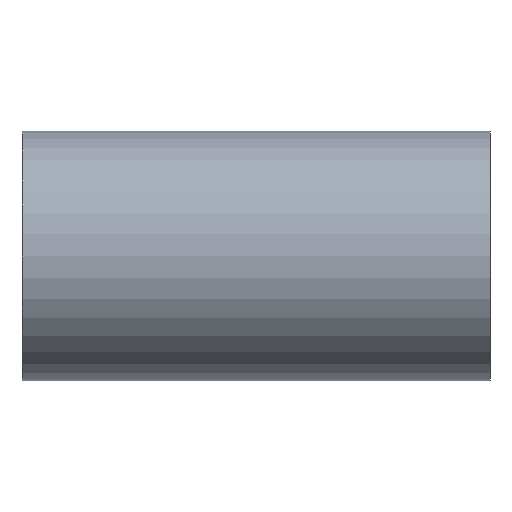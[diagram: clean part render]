
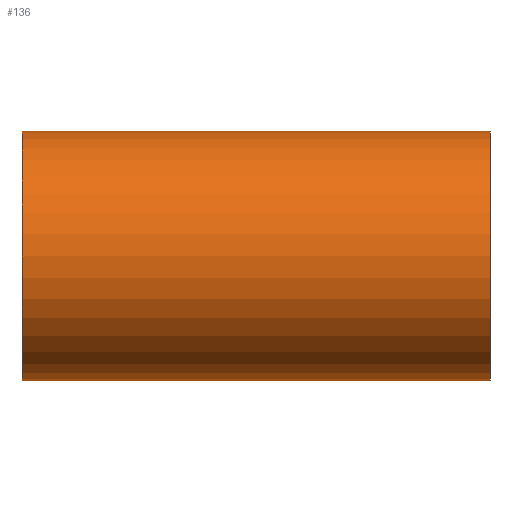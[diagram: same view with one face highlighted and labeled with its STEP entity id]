
A CAD part, front view. The second image highlights one B-rep face of the part: STEP entity #136.
In plain terms, the highlighted cylindrical face has radius 31.75 mm (diameter 63.5 mm), a partial arc.
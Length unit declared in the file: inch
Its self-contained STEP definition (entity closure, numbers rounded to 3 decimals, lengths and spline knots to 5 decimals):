
#4 = VERTEX_POINT ( 'NONE', #277 ) ;
#16 = CARTESIAN_POINT ( 'NONE',  ( 2.3435, 0., 1.25 ) ) ;
#31 = DIRECTION ( 'NONE',  ( 0., 0., 1. ) ) ;
#38 = CARTESIAN_POINT ( 'NONE',  ( -2.3435, 0., 0. ) ) ;
#78 = DIRECTION ( 'NONE',  ( -1., 0., 0. ) ) ;
#81 = CARTESIAN_POINT ( 'NONE',  ( 2.3435, 0., -1.25 ) ) ;
#82 = CARTESIAN_POINT ( 'NONE',  ( 2.3435, 0., 1.25 ) ) ;
#92 = VERTEX_POINT ( 'NONE', #82 ) ;
#109 = ORIENTED_EDGE ( 'NONE', *, *, #560, .F. ) ;
#121 = ORIENTED_EDGE ( 'NONE', *, *, #408, .F. ) ;
#136 = ADVANCED_FACE ( 'NONE', ( #227 ), #330, .T. ) ;
#164 = CIRCLE ( 'NONE', #481, 1.25 ) ;
#179 = CARTESIAN_POINT ( 'NONE',  ( 2.3435, 0., 0. ) ) ;
#194 = CARTESIAN_POINT ( 'NONE',  ( 2.3435, 0., 0. ) ) ;
#202 = EDGE_CURVE ( 'NONE', #4, #233, #164, .T. ) ;
#220 = ORIENTED_EDGE ( 'NONE', *, *, #567, .T. ) ;
#227 = FACE_OUTER_BOUND ( 'NONE', #467, .T. ) ;
#233 = VERTEX_POINT ( 'NONE', #239 ) ;
#239 = CARTESIAN_POINT ( 'NONE',  ( -2.3435, 0., -1.25 ) ) ;
#242 = VECTOR ( 'NONE', #253, 39.37008 ) ;
#245 = DIRECTION ( 'NONE',  ( 0., 0., -1. ) ) ;
#253 = DIRECTION ( 'NONE',  ( -1., 0., 0. ) ) ;
#277 = CARTESIAN_POINT ( 'NONE',  ( -2.3435, 0., 1.25 ) ) ;
#329 = DIRECTION ( 'NONE',  ( 0., 0., -1. ) ) ;
#330 = CYLINDRICAL_SURFACE ( 'NONE', #463, 1.25 ) ;
#333 = LINE ( 'NONE', #16, #242 ) ;
#335 = DIRECTION ( 'NONE',  ( -1., 0., 0. ) ) ;
#353 = LINE ( 'NONE', #489, #445 ) ;
#364 = VERTEX_POINT ( 'NONE', #81 ) ;
#387 = AXIS2_PLACEMENT_3D ( 'NONE', #194, #500, #245 ) ;
#388 = CIRCLE ( 'NONE', #387, 1.25 ) ;
#408 = EDGE_CURVE ( 'NONE', #92, #364, #388, .T. ) ;
#445 = VECTOR ( 'NONE', #335, 39.37008 ) ;
#448 = ORIENTED_EDGE ( 'NONE', *, *, #202, .T. ) ;
#463 = AXIS2_PLACEMENT_3D ( 'NONE', #179, #78, #31 ) ;
#467 = EDGE_LOOP ( 'NONE', ( #109, #121, #220, #448 ) ) ;
#481 = AXIS2_PLACEMENT_3D ( 'NONE', #38, #543, #329 ) ;
#489 = CARTESIAN_POINT ( 'NONE',  ( 2.3435, 0., -1.25 ) ) ;
#500 = DIRECTION ( 'NONE',  ( 1., 0., 0. ) ) ;
#543 = DIRECTION ( 'NONE',  ( 1., 0., 0. ) ) ;
#560 = EDGE_CURVE ( 'NONE', #364, #233, #353, .T. ) ;
#567 = EDGE_CURVE ( 'NONE', #92, #4, #333, .T. ) ;
